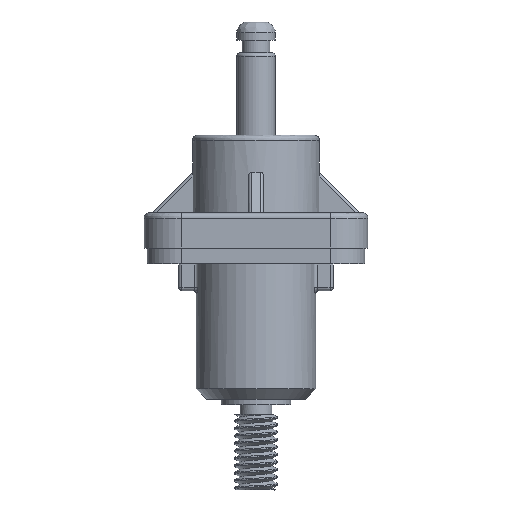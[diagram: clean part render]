
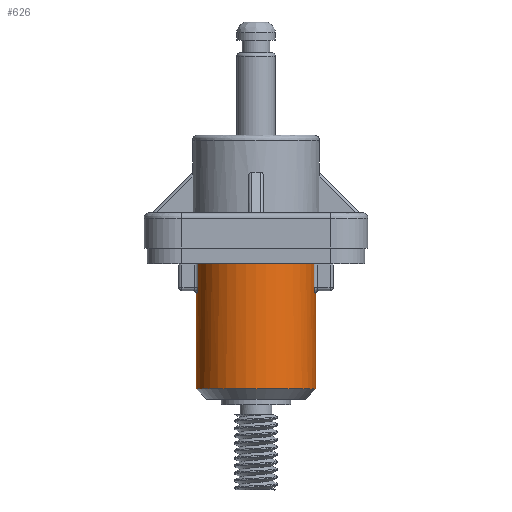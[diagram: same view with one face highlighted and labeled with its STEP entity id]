
A CAD part, front view. The second image highlights one B-rep face of the part: STEP entity #626.
In plain terms, the highlighted cylindrical face has radius 5.6 mm (diameter 11.2 mm), a partial arc.
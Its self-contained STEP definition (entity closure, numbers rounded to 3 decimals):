
#147 = EDGE_CURVE ( 'NONE', #6027, #3570, #4068, .T. ) ;
#328 = VERTEX_POINT ( 'NONE', #4050 ) ;
#430 = CIRCLE ( 'NONE', #3681, 5.6 ) ;
#593 = CARTESIAN_POINT ( 'NONE',  ( -16.286, -1.51, -1.9 ) ) ;
#626 = ADVANCED_FACE ( 'NONE', ( #6129 ), #4061, .T. ) ;
#664 = LINE ( 'NONE', #6954, #4232 ) ;
#692 = AXIS2_PLACEMENT_3D ( 'NONE', #8767, #3973, #8188 ) ;
#819 = VERTEX_POINT ( 'NONE', #3015 ) ;
#874 = DIRECTION ( 'NONE',  ( 0., 0., 1. ) ) ;
#1240 = EDGE_CURVE ( 'NONE', #819, #3071, #5451, .T. ) ;
#1255 = ORIENTED_EDGE ( 'NONE', *, *, #6014, .T. ) ;
#1261 = VERTEX_POINT ( 'NONE', #1725 ) ;
#1390 = VERTEX_POINT ( 'NONE', #2683 ) ;
#1508 = CARTESIAN_POINT ( 'NONE',  ( -10.846, -0.181, -11.4 ) ) ;
#1565 = EDGE_CURVE ( 'NONE', #2673, #1390, #3642, .T. ) ;
#1675 = CARTESIAN_POINT ( 'NONE',  ( -16.446, -0.181, -12.4 ) ) ;
#1691 = CARTESIAN_POINT ( 'NONE',  ( -5.298, -0.94, -2.5 ) ) ;
#1725 = CARTESIAN_POINT ( 'NONE',  ( -5.246, -0.181, -11.4 ) ) ;
#1772 = DIRECTION ( 'NONE',  ( 0., 0., -1. ) ) ;
#1885 = EDGE_CURVE ( 'NONE', #2308, #819, #4253, .T. ) ;
#2012 = AXIS2_PLACEMENT_3D ( 'NONE', #2710, #7635, #3436 ) ;
#2039 = EDGE_CURVE ( 'NONE', #328, #8966, #7536, .T. ) ;
#2041 = ORIENTED_EDGE ( 'NONE', *, *, #3385, .T. ) ;
#2217 = DIRECTION ( 'NONE',  ( 1., 0., 0. ) ) ;
#2308 = VERTEX_POINT ( 'NONE', #8047 ) ;
#2659 = CARTESIAN_POINT ( 'NONE',  ( -16.286, -1.51, -12.4 ) ) ;
#2673 = VERTEX_POINT ( 'NONE', #593 ) ;
#2683 = CARTESIAN_POINT ( 'NONE',  ( -16.395, -0.94, -2.5 ) ) ;
#2710 = CARTESIAN_POINT ( 'NONE',  ( -10.846, -0.181, 0.3 ) ) ;
#2728 = DIRECTION ( 'NONE',  ( 0., 0., -1. ) ) ;
#2863 = CARTESIAN_POINT ( 'NONE',  ( -16.446, -0.181, -2.5 ) ) ;
#2942 = EDGE_LOOP ( 'NONE', ( #3165, #1255, #6769, #7515, #4969, #8185, #7388, #2041, #6792, #5161 ) ) ;
#2951 = VECTOR ( 'NONE', #6908, 1000. ) ;
#3015 = CARTESIAN_POINT ( 'NONE',  ( -5.298, -0.94, -2.5 ) ) ;
#3041 = CARTESIAN_POINT ( 'NONE',  ( -16.335, -1.295, -2.376 ) ) ;
#3071 = VERTEX_POINT ( 'NONE', #9121 ) ;
#3136 = CARTESIAN_POINT ( 'NONE',  ( -5.391, -1.45, -2.209 ) ) ;
#3165 = ORIENTED_EDGE ( 'NONE', *, *, #147, .F. ) ;
#3385 = EDGE_CURVE ( 'NONE', #8966, #2673, #4846, .T. ) ;
#3436 = DIRECTION ( 'NONE',  ( 1., 0., 0. ) ) ;
#3570 = VERTEX_POINT ( 'NONE', #2863 ) ;
#3642 = B_SPLINE_CURVE_WITH_KNOTS ( 'NONE', 3,
 ( #5840, #5147, #7255, #3041, #7968, #3761, #8687, #4470 ),
 .UNSPECIFIED., .F., .F.,
 ( 4, 2, 2, 4 ),
 ( 0., 0.5, 0.75, 1. ),
 .UNSPECIFIED. ) ;
#3681 = AXIS2_PLACEMENT_3D ( 'NONE', #6001, #1772, #6713 ) ;
#3761 = CARTESIAN_POINT ( 'NONE',  ( -16.372, -1.091, -2.484 ) ) ;
#3855 = CARTESIAN_POINT ( 'NONE',  ( -5.406, -1.51, -1.9 ) ) ;
#3916 = CARTESIAN_POINT ( 'NONE',  ( -16.286, -1.51, 0.3 ) ) ;
#3973 = DIRECTION ( 'NONE',  ( 0., 0., 1. ) ) ;
#4050 = CARTESIAN_POINT ( 'NONE',  ( -5.406, -1.51, 0.3 ) ) ;
#4061 = CYLINDRICAL_SURFACE ( 'NONE', #692, 5.6 ) ;
#4068 = LINE ( 'NONE', #1675, #9021 ) ;
#4168 = DIRECTION ( 'NONE',  ( 0., 0., 1. ) ) ;
#4232 = VECTOR ( 'NONE', #4168, 1000. ) ;
#4253 = CIRCLE ( 'NONE', #5511, 5.6 ) ;
#4470 = CARTESIAN_POINT ( 'NONE',  ( -16.395, -0.94, -2.5 ) ) ;
#4611 = EDGE_CURVE ( 'NONE', #1261, #2308, #664, .T. ) ;
#4769 = VECTOR ( 'NONE', #874, 1000. ) ;
#4800 = EDGE_CURVE ( 'NONE', #3071, #328, #8505, .T. ) ;
#4846 = LINE ( 'NONE', #2659, #2951 ) ;
#4969 = ORIENTED_EDGE ( 'NONE', *, *, #1240, .T. ) ;
#5121 = CARTESIAN_POINT ( 'NONE',  ( -5.406, -1.51, -12.4 ) ) ;
#5147 = CARTESIAN_POINT ( 'NONE',  ( -16.287, -1.509, -2.057 ) ) ;
#5161 = ORIENTED_EDGE ( 'NONE', *, *, #6722, .T. ) ;
#5185 = CIRCLE ( 'NONE', #7195, 5.6 ) ;
#5451 = B_SPLINE_CURVE_WITH_KNOTS ( 'NONE', 3,
 ( #1691, #6639, #7346, #3136, #8061, #3855 ),
 .UNSPECIFIED., .F., .F.,
 ( 4, 2, 4 ),
 ( 0., 0.5, 1. ),
 .UNSPECIFIED. ) ;
#5511 = AXIS2_PLACEMENT_3D ( 'NONE', #6951, #2728, #7649 ) ;
#5840 = CARTESIAN_POINT ( 'NONE',  ( -16.286, -1.51, -1.9 ) ) ;
#6001 = CARTESIAN_POINT ( 'NONE',  ( -10.846, -0.181, -2.5 ) ) ;
#6014 = EDGE_CURVE ( 'NONE', #6027, #1261, #5185, .T. ) ;
#6027 = VERTEX_POINT ( 'NONE', #8556 ) ;
#6129 = FACE_OUTER_BOUND ( 'NONE', #2942, .T. ) ;
#6441 = DIRECTION ( 'NONE',  ( 0., 0., 1. ) ) ;
#6639 = CARTESIAN_POINT ( 'NONE',  ( -5.319, -1.093, -2.5 ) ) ;
#6713 = DIRECTION ( 'NONE',  ( 1., 0., 0. ) ) ;
#6722 = EDGE_CURVE ( 'NONE', #1390, #3570, #430, .T. ) ;
#6769 = ORIENTED_EDGE ( 'NONE', *, *, #4611, .T. ) ;
#6792 = ORIENTED_EDGE ( 'NONE', *, *, #1565, .T. ) ;
#6908 = DIRECTION ( 'NONE',  ( 0., 0., -1. ) ) ;
#6951 = CARTESIAN_POINT ( 'NONE',  ( -10.846, -0.181, -2.5 ) ) ;
#6954 = CARTESIAN_POINT ( 'NONE',  ( -5.246, -0.181, -12.4 ) ) ;
#7195 = AXIS2_PLACEMENT_3D ( 'NONE', #1508, #6441, #2217 ) ;
#7255 = CARTESIAN_POINT ( 'NONE',  ( -16.301, -1.451, -2.207 ) ) ;
#7346 = CARTESIAN_POINT ( 'NONE',  ( -5.347, -1.243, -2.432 ) ) ;
#7388 = ORIENTED_EDGE ( 'NONE', *, *, #2039, .T. ) ;
#7515 = ORIENTED_EDGE ( 'NONE', *, *, #1885, .T. ) ;
#7536 = CIRCLE ( 'NONE', #2012, 5.6 ) ;
#7635 = DIRECTION ( 'NONE',  ( 0., 0., -1. ) ) ;
#7649 = DIRECTION ( 'NONE',  ( -1., 0., 0. ) ) ;
#7968 = CARTESIAN_POINT ( 'NONE',  ( -16.347, -1.234, -2.42 ) ) ;
#8047 = CARTESIAN_POINT ( 'NONE',  ( -5.246, -0.181, -2.5 ) ) ;
#8061 = CARTESIAN_POINT ( 'NONE',  ( -5.406, -1.509, -2.057 ) ) ;
#8068 = DIRECTION ( 'NONE',  ( 0., 0., 1. ) ) ;
#8185 = ORIENTED_EDGE ( 'NONE', *, *, #4800, .T. ) ;
#8188 = DIRECTION ( 'NONE',  ( 1., 0., 0. ) ) ;
#8505 = LINE ( 'NONE', #5121, #4769 ) ;
#8556 = CARTESIAN_POINT ( 'NONE',  ( -16.446, -0.181, -11.4 ) ) ;
#8687 = CARTESIAN_POINT ( 'NONE',  ( -16.384, -1.017, -2.5 ) ) ;
#8767 = CARTESIAN_POINT ( 'NONE',  ( -10.846, -0.181, -12.4 ) ) ;
#8966 = VERTEX_POINT ( 'NONE', #3916 ) ;
#9021 = VECTOR ( 'NONE', #8068, 1000. ) ;
#9121 = CARTESIAN_POINT ( 'NONE',  ( -5.406, -1.51, -1.9 ) ) ;
